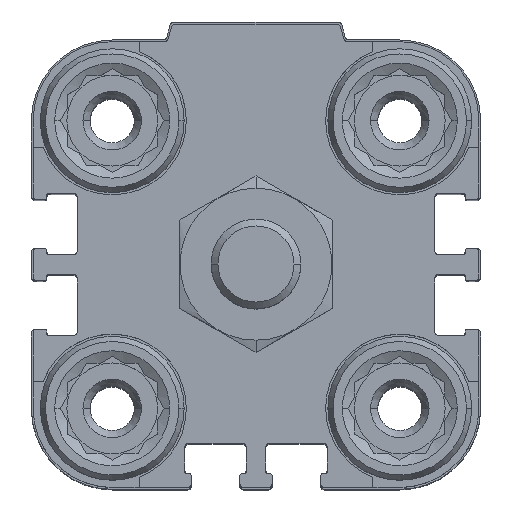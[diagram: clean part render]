
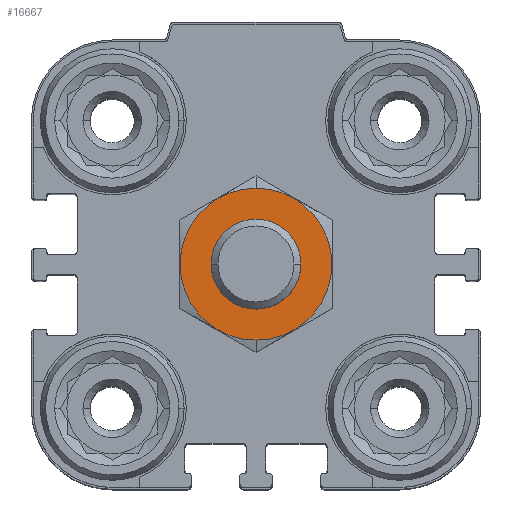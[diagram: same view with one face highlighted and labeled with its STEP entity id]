
A CAD part, top view. The second image highlights one B-rep face of the part: STEP entity #16667.
In plain terms, the highlighted planar face has unit normal (0, 0, 1).
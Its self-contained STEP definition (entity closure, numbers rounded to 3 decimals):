
#311 = VERTEX_POINT ( 'NONE', #11599 ) ;
#961 = DIRECTION ( 'NONE',  ( 0., 0., -1. ) ) ;
#1027 = AXIS2_PLACEMENT_3D ( 'NONE', #18555, #2451, #17546 ) ;
#1292 = ORIENTED_EDGE ( 'NONE', *, *, #8913, .F. ) ;
#2451 = DIRECTION ( 'NONE',  ( 0., 0., -1. ) ) ;
#2652 = CARTESIAN_POINT ( 'NONE',  ( 0., 0., 15. ) ) ;
#3006 = DIRECTION ( 'NONE',  ( 0., -1., 0. ) ) ;
#3041 = VERTEX_POINT ( 'NONE', #9762 ) ;
#3585 = DIRECTION ( 'NONE',  ( 0., 0., -1. ) ) ;
#3753 = CIRCLE ( 'NONE', #1027, 5. ) ;
#3783 = CIRCLE ( 'NONE', #4948, 8.45 ) ;
#4948 = AXIS2_PLACEMENT_3D ( 'NONE', #12238, #8226, #3006 ) ;
#5176 = EDGE_CURVE ( 'NONE', #9394, #3041, #15247, .T. ) ;
#5665 = EDGE_LOOP ( 'NONE', ( #23348, #15376 ) ) ;
#5916 = AXIS2_PLACEMENT_3D ( 'NONE', #2652, #15927, #15552 ) ;
#8174 = CIRCLE ( 'NONE', #20264, 5. ) ;
#8226 = DIRECTION ( 'NONE',  ( 0., 0., -1. ) ) ;
#8913 = EDGE_CURVE ( 'NONE', #3041, #9394, #3783, .T. ) ;
#9394 = VERTEX_POINT ( 'NONE', #10827 ) ;
#9762 = CARTESIAN_POINT ( 'NONE',  ( 0., -8.45, 15. ) ) ;
#9986 = PLANE ( 'NONE',  #23687 ) ;
#10210 = FACE_BOUND ( 'NONE', #5665, .T. ) ;
#10827 = CARTESIAN_POINT ( 'NONE',  ( 0., 8.45, 15. ) ) ;
#11599 = CARTESIAN_POINT ( 'NONE',  ( 0., 5., 15. ) ) ;
#12238 = CARTESIAN_POINT ( 'NONE',  ( 0., 0., 15. ) ) ;
#12834 = CARTESIAN_POINT ( 'NONE',  ( 0., 0., 15. ) ) ;
#13242 = EDGE_LOOP ( 'NONE', ( #1292, #23086 ) ) ;
#13517 = DIRECTION ( 'NONE',  ( 0., -1., 0. ) ) ;
#13907 = VERTEX_POINT ( 'NONE', #19514 ) ;
#15247 = CIRCLE ( 'NONE', #5916, 8.45 ) ;
#15376 = ORIENTED_EDGE ( 'NONE', *, *, #23639, .T. ) ;
#15552 = DIRECTION ( 'NONE',  ( 0., -1., 0. ) ) ;
#15927 = DIRECTION ( 'NONE',  ( 0., 0., -1. ) ) ;
#16667 = ADVANCED_FACE ( 'NONE', ( #17532, #10210 ), #9986, .F. ) ;
#17532 = FACE_OUTER_BOUND ( 'NONE', #13242, .T. ) ;
#17546 = DIRECTION ( 'NONE',  ( 0., -1., 0. ) ) ;
#18070 = DIRECTION ( 'NONE',  ( 0., -1., 0. ) ) ;
#18555 = CARTESIAN_POINT ( 'NONE',  ( 0., 0., 15. ) ) ;
#19121 = CARTESIAN_POINT ( 'NONE',  ( 0., 0., 15. ) ) ;
#19514 = CARTESIAN_POINT ( 'NONE',  ( 0., -5., 15. ) ) ;
#20264 = AXIS2_PLACEMENT_3D ( 'NONE', #12834, #3585, #18070 ) ;
#22633 = EDGE_CURVE ( 'NONE', #311, #13907, #3753, .T. ) ;
#23086 = ORIENTED_EDGE ( 'NONE', *, *, #5176, .F. ) ;
#23348 = ORIENTED_EDGE ( 'NONE', *, *, #22633, .T. ) ;
#23639 = EDGE_CURVE ( 'NONE', #13907, #311, #8174, .T. ) ;
#23687 = AXIS2_PLACEMENT_3D ( 'NONE', #19121, #961, #13517 ) ;
